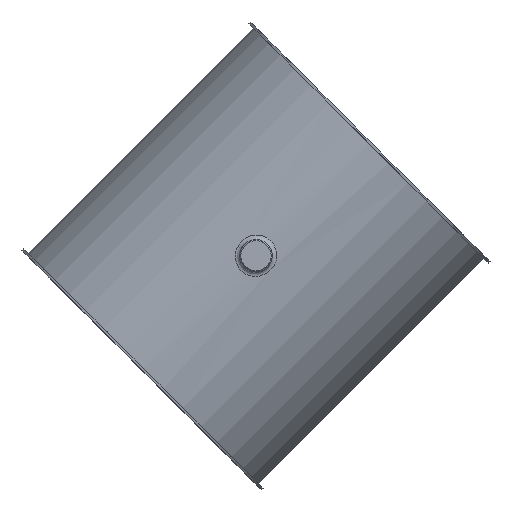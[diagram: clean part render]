
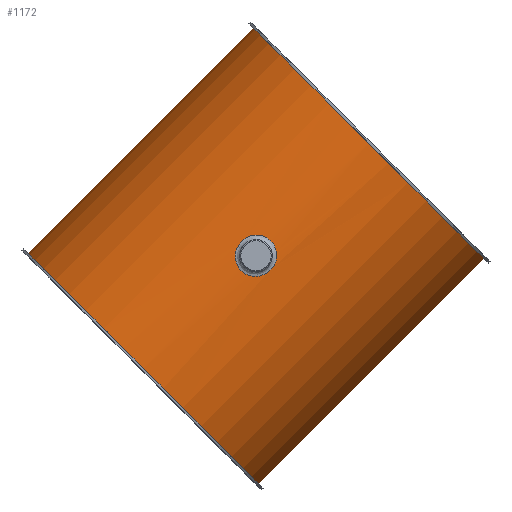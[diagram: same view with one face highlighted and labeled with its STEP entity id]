
A CAD part, top view. The second image highlights one B-rep face of the part: STEP entity #1172.
In plain terms, the highlighted cylindrical face has radius 151.5 mm (diameter 303 mm), a full revolution.
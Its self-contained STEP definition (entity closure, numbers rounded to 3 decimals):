
#844=CARTESIAN_POINT('',(-150.174,20.0,150.));
#845=VERTEX_POINT('',#844);
#846=CARTESIAN_POINT('',(-150.174,20.0,150.));
#847=CARTESIAN_POINT('',(-150.174,20.0,151.257));
#848=CARTESIAN_POINT('',(-150.19,19.88,152.557));
#849=CARTESIAN_POINT('',(-150.256,19.373,155.141));
#850=CARTESIAN_POINT('',(-150.306,18.986,156.426));
#851=CARTESIAN_POINT('',(-150.432,17.965,158.889));
#852=CARTESIAN_POINT('',(-150.507,17.33,160.07));
#853=CARTESIAN_POINT('',(-150.669,15.862,162.253));
#854=CARTESIAN_POINT('',(-150.755,15.029,163.255));
#855=CARTESIAN_POINT('',(-150.922,13.255,165.029));
#856=CARTESIAN_POINT('',(-151.008,12.253,165.862));
#857=CARTESIAN_POINT('',(-151.169,10.07,167.33));
#858=CARTESIAN_POINT('',(-151.244,8.889,167.965));
#859=CARTESIAN_POINT('',(-151.369,6.426,168.986));
#860=CARTESIAN_POINT('',(-151.418,5.141,169.373));
#861=CARTESIAN_POINT('',(-151.484,2.557,169.88));
#862=CARTESIAN_POINT('',(-151.5,1.257,170.0));
#863=CARTESIAN_POINT('',(-151.5,-1.257,170.0));
#864=CARTESIAN_POINT('',(-151.484,-2.557,169.88));
#865=CARTESIAN_POINT('',(-151.418,-5.141,169.373));
#866=CARTESIAN_POINT('',(-151.369,-6.426,168.986));
#867=CARTESIAN_POINT('',(-151.244,-8.889,167.965));
#868=CARTESIAN_POINT('',(-151.169,-10.07,167.33));
#869=CARTESIAN_POINT('',(-151.008,-12.253,165.862));
#870=CARTESIAN_POINT('',(-150.922,-13.255,165.029));
#871=CARTESIAN_POINT('',(-150.755,-15.029,163.255));
#872=CARTESIAN_POINT('',(-150.669,-15.862,162.253));
#873=CARTESIAN_POINT('',(-150.507,-17.33,160.07));
#874=CARTESIAN_POINT('',(-150.432,-17.965,158.889));
#875=CARTESIAN_POINT('',(-150.306,-18.986,156.426));
#876=CARTESIAN_POINT('',(-150.256,-19.373,155.141));
#877=CARTESIAN_POINT('',(-150.19,-19.88,152.557));
#878=CARTESIAN_POINT('',(-150.174,-20.0,151.257));
#879=CARTESIAN_POINT('',(-150.174,-20.0,148.743));
#880=CARTESIAN_POINT('',(-150.19,-19.88,147.443));
#881=CARTESIAN_POINT('',(-150.256,-19.373,144.859));
#882=CARTESIAN_POINT('',(-150.306,-18.986,143.574));
#883=CARTESIAN_POINT('',(-150.432,-17.965,141.111));
#884=CARTESIAN_POINT('',(-150.507,-17.33,139.93));
#885=CARTESIAN_POINT('',(-150.669,-15.862,137.747));
#886=CARTESIAN_POINT('',(-150.755,-15.029,136.745));
#887=CARTESIAN_POINT('',(-150.922,-13.255,134.971));
#888=CARTESIAN_POINT('',(-151.008,-12.253,134.138));
#889=CARTESIAN_POINT('',(-151.169,-10.07,132.67));
#890=CARTESIAN_POINT('',(-151.244,-8.889,132.035));
#891=CARTESIAN_POINT('',(-151.369,-6.426,131.014));
#892=CARTESIAN_POINT('',(-151.418,-5.141,130.627));
#893=CARTESIAN_POINT('',(-151.484,-2.557,130.12));
#894=CARTESIAN_POINT('',(-151.5,-1.257,130.0));
#895=CARTESIAN_POINT('',(-151.5,1.257,130.0));
#896=CARTESIAN_POINT('',(-151.484,2.557,130.12));
#897=CARTESIAN_POINT('',(-151.418,5.141,130.627));
#898=CARTESIAN_POINT('',(-151.369,6.426,131.014));
#899=CARTESIAN_POINT('',(-151.244,8.889,132.035));
#900=CARTESIAN_POINT('',(-151.169,10.07,132.67));
#901=CARTESIAN_POINT('',(-151.008,12.253,134.138));
#902=CARTESIAN_POINT('',(-150.922,13.255,134.971));
#903=CARTESIAN_POINT('',(-150.755,15.029,136.745));
#904=CARTESIAN_POINT('',(-150.669,15.862,137.747));
#905=CARTESIAN_POINT('',(-150.507,17.33,139.93));
#906=CARTESIAN_POINT('',(-150.432,17.965,141.111));
#907=CARTESIAN_POINT('',(-150.306,18.986,143.574));
#908=CARTESIAN_POINT('',(-150.256,19.373,144.859));
#909=CARTESIAN_POINT('',(-150.19,19.88,147.443));
#910=CARTESIAN_POINT('',(-150.174,20.,148.743));
#911=CARTESIAN_POINT('',(-150.174,20.,150.));
#912=B_SPLINE_CURVE_WITH_KNOTS('',3,(#846,#847,#848,#849,#850,#851,#852,#853,#854,#855,#856,#857,#858,#859,#860,#861,#862,#863,#864,#865,#866,#867,#868,#869,#870,#871,#872,#873,#874,#875,#876,#877,#878,#879,#880,#881,#882,#883,#884,#885,#886,#887,#888,#889,#890,#891,#892,#893,#894,#895,#896,#897,#898,#899,#900,#901,#902,#903,#904,#905,#906,#907,#908,#909,#910,#911),.UNSPECIFIED.,.T.,.U.,(4,2,2,2,2,2,2,2,2,2,2,2,2,2,2,2,2,2,2,2,2,2,2,2,2,2,2,2,2,2,2,2,4),(0.0,0.377,0.754,1.131,1.509,1.886,2.263,2.64,3.017,3.394,3.772,4.149,4.526,4.903,5.28,5.657,6.035,6.412,6.789,7.166,7.543,7.92,8.298,8.675,9.052,9.429,9.806,10.183,10.56,10.938,11.315,11.692,12.069),.UNSPECIFIED.);
#913=EDGE_CURVE('',#845,#845,#912,.T.);
#1101=CARTESIAN_POINT('',(150.312,18.938,150.0));
#1102=VERTEX_POINT('',#1101);
#1112=CARTESIAN_POINT('',(150.312,18.937,150.));
#1113=CARTESIAN_POINT('',(150.312,18.937,150.002));
#1114=CARTESIAN_POINT('',(150.312,18.937,150.003));
#1115=CARTESIAN_POINT('',(150.312,18.937,150.005));
#1116=CARTESIAN_POINT('',(150.312,18.936,152.909));
#1117=CARTESIAN_POINT('',(150.481,17.664,158.707));
#1118=CARTESIAN_POINT('',(151.057,12.226,165.749));
#1119=CARTESIAN_POINT('',(151.517,4.403,169.649));
#1120=CARTESIAN_POINT('',(151.517,-4.35,169.663));
#1121=CARTESIAN_POINT('',(151.062,-12.184,165.777));
#1122=CARTESIAN_POINT('',(150.415,-18.25,158.));
#1123=CARTESIAN_POINT('',(150.226,-19.581,148.949));
#1124=CARTESIAN_POINT('',(150.586,-16.765,139.525));
#1125=CARTESIAN_POINT('',(151.135,-11.407,133.587));
#1126=CARTESIAN_POINT('',(151.518,-3.402,130.344));
#1127=CARTESIAN_POINT('',(151.518,4.351,130.339));
#1128=CARTESIAN_POINT('',(151.058,12.209,134.23));
#1129=CARTESIAN_POINT('',(150.58,16.736,140.084));
#1130=CARTESIAN_POINT('',(150.353,18.613,145.611));
#1131=CARTESIAN_POINT('',(150.312,18.937,148.55));
#1132=CARTESIAN_POINT('',(150.312,18.937,150.));
#1133=B_SPLINE_CURVE_WITH_KNOTS('',3,(#1112,#1113,#1114,#1115,#1116,#1117,#1118,#1119,#1120,#1121,#1122,#1123,#1124,#1125,#1126,#1127,#1128,#1129,#1130,#1131,#1132),.UNSPECIFIED.,.T.,.U.,(4,3,1,1,1,1,1,1,1,1,1,1,1,1,1,1,4),(-9.047,-9.047,-8.401,-7.754,-7.108,-6.462,-5.816,-5.17,-4.308,-3.877,-3.016,-2.585,-1.939,-1.292,-0.646,-0.323,0.),.UNSPECIFIED.);
#1134=EDGE_CURVE('',#1102,#1102,#1133,.T.);
#1139=CARTESIAN_POINT('',(0.0,0.0,0.0));
#1140=DIRECTION('',(0.0,0.0,1.0));
#1141=DIRECTION('',(-1.0,0.0,0.0));
#1142=AXIS2_PLACEMENT_3D('',#1139,#1140,#1141);
#1143=CYLINDRICAL_SURFACE('',#1142,151.5);
#1144=CARTESIAN_POINT('',(151.5,0.,298.0));
#1145=VERTEX_POINT('',#1144);
#1146=CARTESIAN_POINT('',(0.0,0.0,298.0));
#1147=DIRECTION('',(0.0,0.0,-1.0));
#1148=DIRECTION('',(-1.0,0.0,0.0));
#1149=AXIS2_PLACEMENT_3D('',#1146,#1147,#1148);
#1150=CIRCLE('',#1149,151.5);
#1151=EDGE_CURVE('',#1145,#1145,#1150,.T.);
#1152=ORIENTED_EDGE('',*,*,#1151,.T.);
#1153=EDGE_LOOP('',(#1152));
#1154=FACE_OUTER_BOUND('',#1153,.T.);
#1155=ORIENTED_EDGE('',*,*,#913,.T.);
#1156=EDGE_LOOP('',(#1155));
#1157=FACE_BOUND('',#1156,.T.);
#1158=CARTESIAN_POINT('',(-151.5,0.,2.0));
#1159=VERTEX_POINT('',#1158);
#1160=CARTESIAN_POINT('',(0.0,0.0,2.0));
#1161=DIRECTION('',(0.0,0.0,1.0));
#1162=DIRECTION('',(-1.0,0.0,0.0));
#1163=AXIS2_PLACEMENT_3D('',#1160,#1161,#1162);
#1164=CIRCLE('',#1163,151.5);
#1165=EDGE_CURVE('',#1159,#1159,#1164,.T.);
#1166=ORIENTED_EDGE('',*,*,#1165,.T.);
#1167=EDGE_LOOP('',(#1166));
#1168=FACE_BOUND('',#1167,.T.);
#1169=ORIENTED_EDGE('',*,*,#1134,.F.);
#1170=EDGE_LOOP('',(#1169));
#1171=FACE_BOUND('',#1170,.T.);
#1172=ADVANCED_FACE('',(#1154,#1157,#1168,#1171),#1143,.T.);
